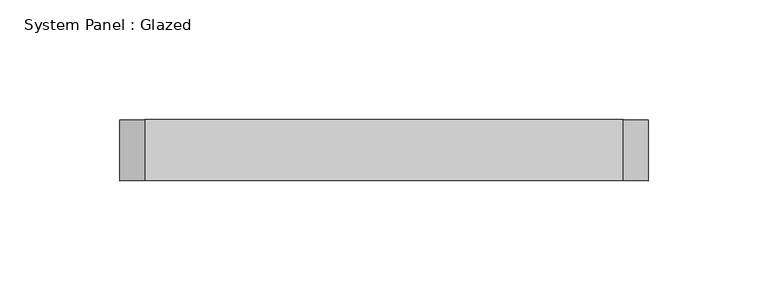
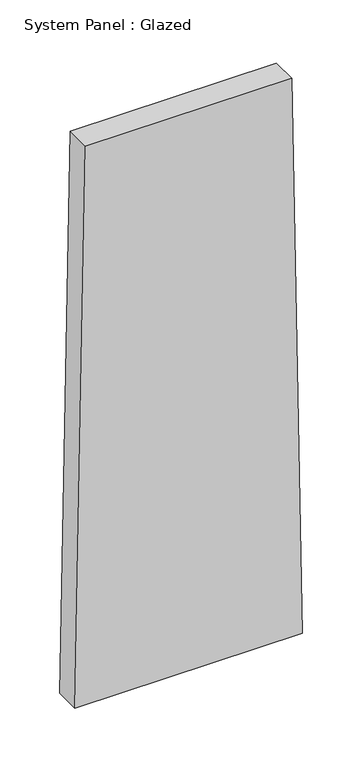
"""IFC4 building model written with IfcOpenShell, lengths in millimetres: plate geometry, System Panel : Glazed."""

from ifc_helpers import new_model, si_unit, frame, origin, place, context, project, spatial, polyline, outline, extrude, source, transform, mapped, element, save


def system_panel_glazed_df8e7a80(model_context):
    return source(origin(), model_context, "Body", "SweptSolid", [
        extrude(outline(polyline([(0.0, -110.0359915), (0.0, 110.0359915), (571.4014818, 99.7618709), (571.4014818, -99.7618709), (0.0, -110.0359915)])), frame((0.0, -44.45, 0.0), z_axis=(0.0, 1.0, 0.0), x_axis=(0.0, 0.0, 1.0)), (0.0, 0.0, 1.0), 25.4),
    ])


if __name__ == "__main__":
    model = new_model("IFC4")
    model_context = context("Model", 3, world=origin())
    ifc_project = project(units=[si_unit("LENGTHUNIT", "METRE", prefix="MILLI")], contexts=[model_context])
    site = spatial("IfcSite", under=ifc_project)
    building = spatial("IfcBuilding", under=site)
    placement = place(None, origin())
    system_panel_glazed_shape = system_panel_glazed_df8e7a80(model_context)
    element("IfcPlate", 1, ObjectType="System Panel : Glazed", at=placement, inside=building, context=model_context, shape_type="MappedRepresentation", body=[
        mapped(system_panel_glazed_shape, transform((0.0, 0.0, 0.0), x_axis=(1.0, 0.0, 0.0), y_axis=(0.0, 1.0, 0.0), z_axis=(0.0, 0.0, 1.0))),
    ])
    save(model, "model.ifc")
